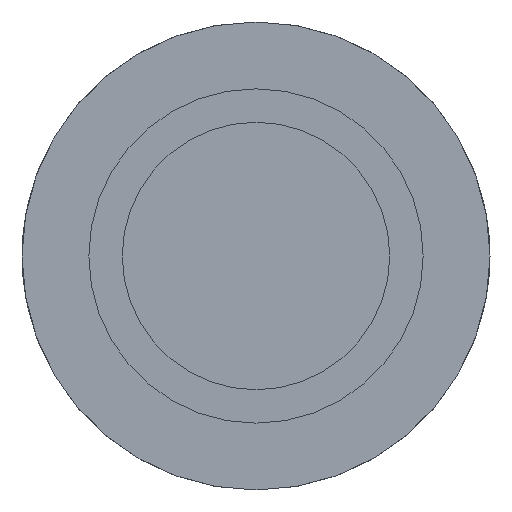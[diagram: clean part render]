
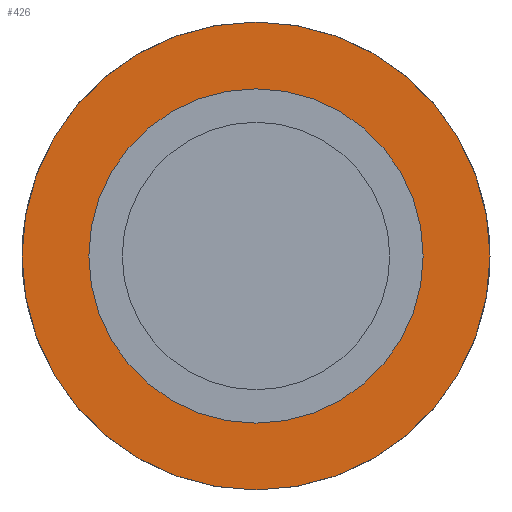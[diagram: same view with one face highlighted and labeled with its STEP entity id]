
A CAD part, left-side view. The second image highlights one B-rep face of the part: STEP entity #426.
In plain terms, the highlighted planar face has unit normal (-1, 0, 0).
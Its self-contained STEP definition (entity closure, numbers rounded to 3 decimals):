
#395=CARTESIAN_POINT('',(45.0,0.0,7.));
#396=VERTEX_POINT('',#395);
#397=CARTESIAN_POINT('',(45.0,0.0,0.));
#398=DIRECTION('',(-1.0,0.0,0.0));
#399=DIRECTION('',(0.0,0.0,1.0));
#400=AXIS2_PLACEMENT_3D('',#397,#398,#399);
#401=CIRCLE('',#400,7.);
#402=EDGE_CURVE('',#396,#396,#401,.T.);
#407=CARTESIAN_POINT('',(45.0,0.0,6.));
#408=DIRECTION('',(-1.0,0.0,0.0));
#409=DIRECTION('',(0.0,0.0,1.0));
#410=AXIS2_PLACEMENT_3D('',#407,#408,#409);
#411=PLANE('',#410);
#412=ORIENTED_EDGE('',*,*,#402,.T.);
#413=EDGE_LOOP('',(#412));
#414=FACE_OUTER_BOUND('',#413,.T.);
#415=CARTESIAN_POINT('',(45.0,0.0,5.));
#416=VERTEX_POINT('',#415);
#417=CARTESIAN_POINT('',(45.0,0.0,0.));
#418=DIRECTION('',(-1.0,0.0,0.0));
#419=DIRECTION('',(0.0,0.0,1.0));
#420=AXIS2_PLACEMENT_3D('',#417,#418,#419);
#421=CIRCLE('',#420,5.);
#422=EDGE_CURVE('',#416,#416,#421,.T.);
#423=ORIENTED_EDGE('',*,*,#422,.F.);
#424=EDGE_LOOP('',(#423));
#425=FACE_BOUND('',#424,.T.);
#426=ADVANCED_FACE('',(#414,#425),#411,.T.);
